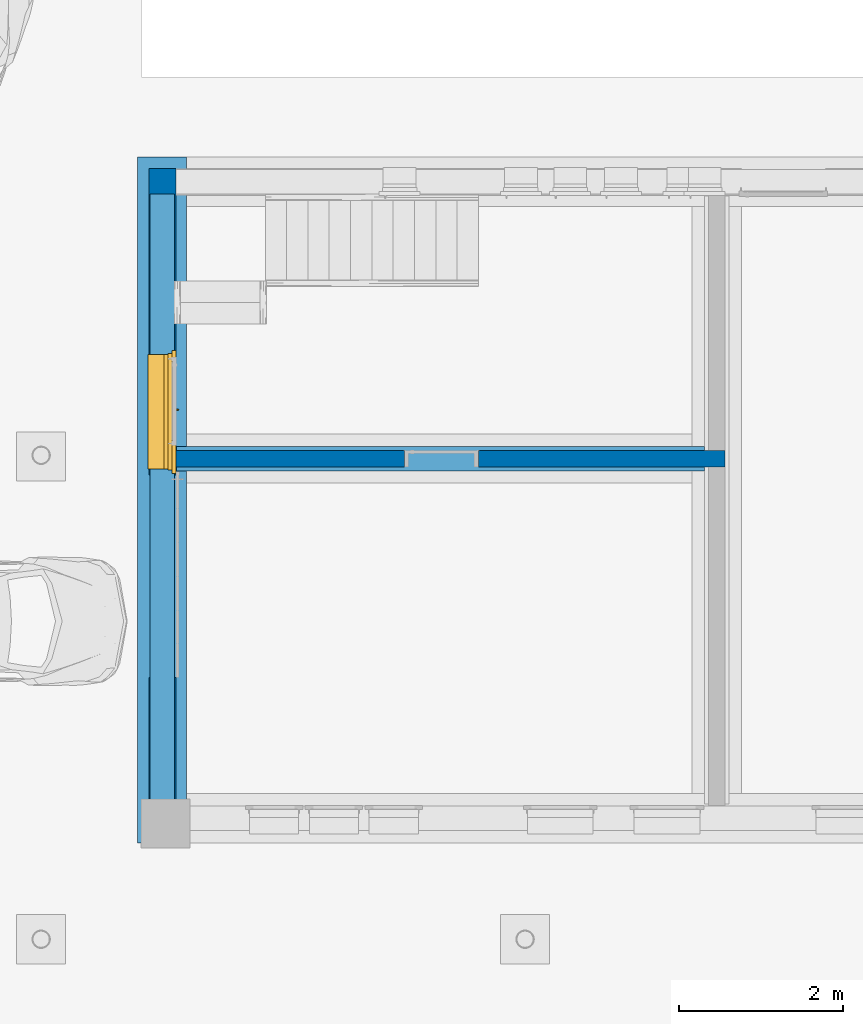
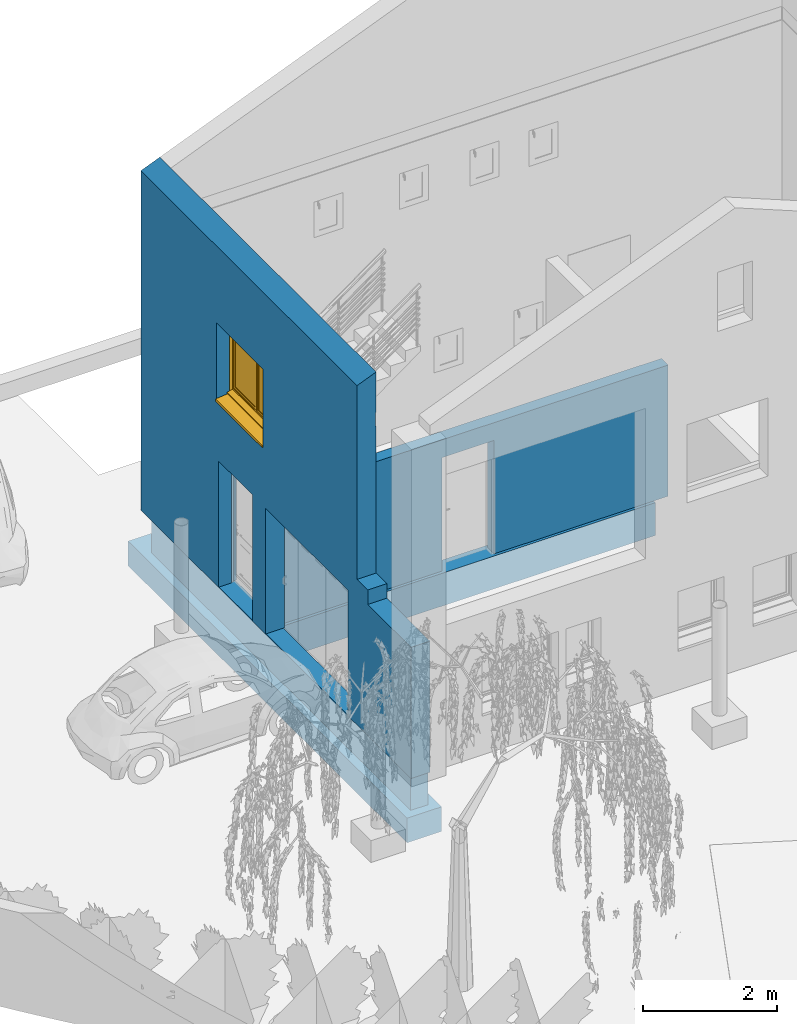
"""IFC2X3 building model written with IfcOpenShell, lengths in metres."""

from ifc_helpers import new_model, entity, si_unit, converted_unit, derived_unit, direction, frame, frame_2d, origin, place, context, subcontext, project, spatial, polyline, rectangle, extrude, clip, bounded_halfspace, faceted_brep, source, transform, mapped, material, material_list, layer, layer_set, layer_usage, type_object, type_shapes, element, fill, save


model = new_model("IFC2X3")

# Units and contexts
model_context = context("Model", 3, precision=1e-05, world=origin(), true_north=direction((6.12303176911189e-17, 1.0)))
body_context = subcontext(model_context, "Body", "Model", "MODEL_VIEW")
ifc_project = project(units=[si_unit("LENGTHUNIT", "METRE"), si_unit("AREAUNIT", "SQUARE_METRE"), si_unit("VOLUMEUNIT", "CUBIC_METRE"), converted_unit("PLANEANGLEUNIT", "DEGREE", entity("IfcRatioMeasure", 0.0174532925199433), si_unit("PLANEANGLEUNIT", "RADIAN"), dimensions=[0, 0, 0, 0, 0, 0, 0]), si_unit("MASSUNIT", "GRAM", prefix="KILO"), derived_unit("MASSDENSITYUNIT", [(si_unit("MASSUNIT", "GRAM", prefix="KILO"), 1), (si_unit("LENGTHUNIT", "METRE"), -3)]), derived_unit("MOMENTOFINERTIAUNIT", [(si_unit("LENGTHUNIT", "METRE"), 4)]), si_unit("TIMEUNIT", "SECOND"), si_unit("FREQUENCYUNIT", "HERTZ"), si_unit("THERMODYNAMICTEMPERATUREUNIT", "DEGREE_CELSIUS"), derived_unit("THERMALTRANSMITTANCEUNIT", [(si_unit("MASSUNIT", "GRAM", prefix="KILO"), 1), (si_unit("THERMODYNAMICTEMPERATUREUNIT", "KELVIN"), -1), (si_unit("TIMEUNIT", "SECOND"), -3)]), derived_unit("VOLUMETRICFLOWRATEUNIT", [(si_unit("LENGTHUNIT", "METRE"), 3), (si_unit("TIMEUNIT", "SECOND"), -1)]), si_unit("ELECTRICCURRENTUNIT", "AMPERE"), si_unit("ELECTRICVOLTAGEUNIT", "VOLT"), si_unit("POWERUNIT", "WATT"), si_unit("FORCEUNIT", "NEWTON", prefix="KILO"), si_unit("ILLUMINANCEUNIT", "LUX"), si_unit("LUMINOUSFLUXUNIT", "LUMEN"), si_unit("LUMINOUSINTENSITYUNIT", "CANDELA"), derived_unit("USERDEFINED", [(si_unit("MASSUNIT", "GRAM", prefix="KILO"), -1), (si_unit("LENGTHUNIT", "METRE"), -2), (si_unit("TIMEUNIT", "SECOND"), 3), (si_unit("LUMINOUSFLUXUNIT", "LUMEN"), 1)]), derived_unit("LINEARVELOCITYUNIT", [(si_unit("LENGTHUNIT", "METRE"), 1), (si_unit("TIMEUNIT", "SECOND"), -1)]), si_unit("PRESSUREUNIT", "PASCAL"), derived_unit("USERDEFINED", [(si_unit("LENGTHUNIT", "METRE"), -2), (si_unit("MASSUNIT", "GRAM", prefix="KILO"), 1), (si_unit("TIMEUNIT", "SECOND"), -2)]), derived_unit("LINEARFORCEUNIT", [(si_unit("MASSUNIT", "GRAM", prefix="KILO"), 1), (si_unit("LENGTHUNIT", "METRE"), 1), (si_unit("TIMEUNIT", "SECOND"), -2), (si_unit("LENGTHUNIT", "METRE"), -1)]), derived_unit("PLANARFORCEUNIT", [(si_unit("MASSUNIT", "GRAM", prefix="KILO"), 1), (si_unit("LENGTHUNIT", "METRE"), 1), (si_unit("TIMEUNIT", "SECOND"), -2), (si_unit("LENGTHUNIT", "METRE"), -2)])], contexts=[model_context])

# Site, building, storey
site_placement = place(None, origin())
site = spatial("IfcSite", under=ifc_project, at=site_placement, Name="Surface", CompositionType="ELEMENT")
building_placement = place(site_placement, origin())
building = spatial("IfcBuilding", under=site, at=building_placement, CompositionType="ELEMENT")
storey_1_placement = place(building_placement, origin())
storey_1 = spatial("IfcBuildingStorey", under=building, at=storey_1_placement, Name="Niveau rdc", CompositionType="ELEMENT", Elevation=-1.94916083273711e-14)

# Wall, openings
ifc_material_1 = material(Name="Maçonnerie - Isolant")
ifc_layer_1 = layer(ifc_material_1, 0.015)
ifc_material_2 = material(Name="Blocs briques monomur")
ifc_layer_2 = layer(ifc_material_2, 0.3)
ifc_layer_3 = layer(ifc_material_1, 0.015)
ifc_layer_set_1 = layer_set([ifc_layer_1, ifc_layer_2, ifc_layer_3], Name="Mur de base:bloc monomur30")
ifc_layer_usage_1 = layer_usage(ifc_layer_set_1, "AXIS2", "NEGATIVE", 0.165)
wall_type_1 = type_object("IfcWallType", Name="Mur de base:bloc monomur30", PredefinedType="STANDARD", material=ifc_layer_set_1)
wall_1_placement = place(storey_1_placement, frame((1.7193960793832, -0.755741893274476, 0.0), z_axis=(0.0, 0.0, 1.0), x_axis=(0.0, 1.0, 0.0)))
wall_1 = element("IfcWallStandardCase", 1, at=wall_1_placement, inside=storey_1, type_object=wall_type_1, material=ifc_layer_usage_1, Name="Mur de base:bloc monomur30", ObjectType="Mur de base:bloc monomur30", context=body_context, shape_type="Clipping", body=[
    clip(clip(clip(clip(extrude(rectangle(XDim=8.09499999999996, YDim=0.33, at=frame_2d((4.04749999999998, -6.93889390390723e-17), x_axis=(-1.0, 0.0))), origin(), (0.0, 0.0, 1.0), 6.34046205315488), bounded_halfspace(frame((1.29499999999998, -0.165, 2.66500000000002), z_axis=(0.0, 0.0, -1.0), x_axis=(1.0, 0.0, 0.0)), True, frame((1.29499999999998, -0.165, 2.66500000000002)), polyline([(0.0, 0.0), (0.320476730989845, 0.0), (0.320476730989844, 0.33), (0.0, 0.33), (0.0, 0.0)]))), bounded_halfspace(frame((0.0, -0.165, 2.40000000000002), z_axis=(0.0, 0.0, -1.0), x_axis=(0.0, 1.0, 0.0)), True, frame((0.0, -0.165, 2.40000000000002)), polyline([(0.0, 0.0), (1.29499999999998, 0.0), (1.29499999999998, 0.33), (0.0, 0.33), (0.0, 0.0)]))), bounded_halfspace(frame((1.61547673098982, -0.165, 6.34046205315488), z_axis=(0.0, 0.374606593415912, 0.927183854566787), x_axis=(-1.0, 0.0, 0.0)), False, frame((1.61547673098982, -0.165, 6.34046205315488)), polyline([(0.0, 0.0), (2.33952326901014, 0.0), (2.53952326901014, 0.0), (6.14952326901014, 0.0), (6.47952326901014, 0.0), (6.47952326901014, 0.33), (0.0, 0.33), (0.0, 0.0)]))), bounded_halfspace(frame((1.29499999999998, -0.165, 2.66500000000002), z_axis=(0.0, 0.0, -1.0), x_axis=(1.0, 0.0, 0.0)), True, frame((1.29499999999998, -0.165, 2.66500000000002)), polyline([(0.0, 0.0), (0.320476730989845, 0.0), (0.320476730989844, 0.33), (0.0, 0.33), (0.0, 0.0)]))),
])
opening_1_placement = place(storey_1_placement, frame((1.7193960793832, -0.755741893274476, 0.0), z_axis=(0.0, 0.0, 1.0), x_axis=(0.0, 1.0, 0.0)))
element("IfcOpeningElement", 2, at=opening_1_placement, cuts=wall_1, Name="Mur de base:bloc monomur30:1", ObjectType="Opening", context=body_context, shape_type="SweptSolid", body=[
    extrude(rectangle(XDim=0.0149999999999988, YDim=6.16452326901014, at=frame_2d((0.00250000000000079, 0.0558333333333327), x_axis=(1.0, 0.0))), frame((4.75357169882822, -0.16, 5.35000000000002), z_axis=(0.0, 0.0, 1.0), x_axis=(0.0, 1.0, 0.0)), (0.0, 0.0, 1.0), 0.249999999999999),
])
opening_2_placement = place(wall_1_placement, frame((4.35999999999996, 0.164999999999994, 0.0)))
element("IfcOpeningElement", 3, at=opening_2_placement, cuts=wall_1, Name="Garage coulissante:Garage coulissante:1", ObjectType="Opening", context=body_context, shape_type="SweptSolid", body=[
    extrude(rectangle(XDim=2.29999999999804, YDim=2.47, at=frame_2d((1.14999999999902, 1.235), x_axis=(1.0, 0.0))), frame((0.0, 0.0, 0.0), z_axis=(0.0, -1.0, 0.0), x_axis=(0.0, 0.0, 1.0)), (0.0, 0.0, 1.0), 0.33),
])
opening_3_placement = place(wall_1_placement, frame((4.71999999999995, 0.465000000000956, 0.0), z_axis=(0.0, 0.0, 1.0), x_axis=(0.0, -1.0, 0.0)))
element("IfcOpeningElement", 4, at=opening_3_placement, cuts=wall_1, Name="Mur de base:bloc monomur30", ObjectType="Opening", context=body_context, shape_type="Brep", body=[
    faceted_brep([(0.930000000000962, 0.0300000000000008, 2.30999999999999), (0.930000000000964, 1.05, 2.30999999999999), (0.630000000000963, 1.05, 2.30999999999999), (0.630000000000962, 0.0300000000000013, 2.30999999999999), (0.0, 0.0300000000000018, 0.0), (0.0, 1.05, 0.0), (0.530000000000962, 1.05, 0.0), (0.530000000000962, 1.065, 0.0), (0.573000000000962, 1.065, 0.0), (0.573000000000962, 1.08, 0.0), (0.630000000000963, 1.08, 0.0), (0.630000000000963, 1.05, 0.0), (0.930000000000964, 1.05, 0.0), (0.930000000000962, 0.0300000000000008, 0.0), (0.630000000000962, 0.0300000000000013, 0.0), (0.630000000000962, 0.0, 0.0), (0.57300000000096, 0.0, 0.0), (0.57300000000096, 0.0150000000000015, 0.0), (0.53000000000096, 0.0150000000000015, 0.0), (0.53000000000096, 0.0300000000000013, 0.0), (0.0, 0.0300000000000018, 2.30999999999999), (0.0, 1.05, 2.30999999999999), (0.530000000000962, 1.05, 2.30999999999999), (0.57300000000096, 0.0, 2.33999999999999), (0.573000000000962, 1.08, 2.33999999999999), (0.573000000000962, 1.065, 2.32499999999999), (0.57300000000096, 0.0150000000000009, 2.32499999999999), (0.630000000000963, 1.08, 2.33999999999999), (0.630000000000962, 0.0, 2.33999999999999), (0.530000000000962, 1.065, 2.32499999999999), (0.53000000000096, 0.0300000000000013, 2.30999999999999), (0.53000000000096, 0.0150000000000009, 2.32499999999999)], [[[0, 1, 2, 3]], [[4, 5, 6, 7, 8, 9, 10, 11, 12, 13, 14, 15, 16, 17, 18, 19]], [[13, 0, 3, 14]], [[20, 21, 5, 4]], [[5, 21, 22, 6]], [[1, 0, 13, 12]], [[16, 23, 24, 9, 8, 25, 26, 17]], [[11, 10, 27, 28, 15, 14, 3, 2]], [[10, 9, 24, 27]], [[24, 23, 28, 27]], [[23, 16, 15, 28]], [[8, 7, 29, 25]], [[7, 6, 22, 30, 19, 18, 31, 29]], [[25, 29, 31, 26]], [[31, 18, 17, 26]], [[1, 12, 11, 2]], [[20, 4, 19, 30]], [[21, 20, 30, 22]]]),
])
opening_4_placement = place(wall_1_placement, frame((4.38047673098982, 0.499999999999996, 3.37), z_axis=(0.0, 0.0, 1.0), x_axis=(0.0, -1.0, 0.0)))
opening_4 = element("IfcOpeningElement", 5, at=opening_4_placement, cuts=wall_1, Name="Mur de base:bloc monomur30", ObjectType="Opening", context=body_context, shape_type="Brep", body=[
    faceted_brep([(0.585000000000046, 0.0499999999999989, 0.0800000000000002), (0.564999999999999, 0.0499999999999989, 0.0800000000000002), (0.564999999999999, 0.0499999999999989, 1.43), (0.0, 0.0500000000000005, 1.43), (0.0, 0.0500000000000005, 0.0), (0.585000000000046, 0.0499999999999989, 0.0), (1.0, 1.45, 0.0800000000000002), (0.665000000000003, 1.45, 0.0800000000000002), (0.665000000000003, 1.45, 1.43), (1.0, 1.45, 1.43), (1.0, 0.0499999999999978, 0.0800000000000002), (0.665000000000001, 0.0499999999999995, 0.0800000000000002), (0.665000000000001, 0.0, 0.0800000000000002), (0.615000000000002, 0.0, 0.0800000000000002), (0.615000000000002, 0.0399999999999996, 0.0800000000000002), (0.564999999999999, 0.0399999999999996, 0.0800000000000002), (0.58500000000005, 1.45, 0.0799999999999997), (0.565000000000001, 1.45, 0.0800000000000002), (0.565000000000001, 1.46, 0.0800000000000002), (0.615000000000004, 1.46, 0.0800000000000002), (0.615000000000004, 1.5, 0.0800000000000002), (0.665000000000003, 1.5, 0.0800000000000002), (1.0, 0.0499999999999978, 1.43), (0.565, 1.45, 1.43), (0.0, 1.45, 1.43), (0.0, 1.45, 0.0), (0.58500000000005, 1.45, 0.0), (0.665000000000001, 0.0, 1.48), (0.615000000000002, 0.0, 1.48), (0.615000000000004, 1.5, 1.48), (0.615000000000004, 1.46, 1.44), (0.615000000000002, 0.0399999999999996, 1.44), (0.564999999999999, 0.0399999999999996, 1.44), (0.565000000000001, 1.46, 1.44), (0.665000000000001, 0.0499999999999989, 1.43), (0.665000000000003, 1.5, 1.48)], [[[0, 1, 2, 3, 4, 5]], [[6, 7, 8, 9]], [[10, 11, 12, 13, 14, 15, 1, 0, 16, 17, 18, 19, 20, 21, 7, 6]], [[10, 6, 9, 22]], [[3, 2, 23, 24]], [[3, 24, 25, 4]], [[4, 25, 26, 5]], [[5, 26, 16, 0]], [[12, 27, 28, 13]], [[13, 28, 29, 20, 19, 30, 31, 14]], [[14, 31, 32, 15]], [[15, 32, 33, 18, 17, 23, 2, 1]], [[11, 34, 8, 7, 21, 35, 27, 12]], [[27, 35, 29, 28]], [[30, 33, 32, 31]], [[29, 35, 21, 20]], [[19, 18, 33, 30]], [[9, 8, 34, 22]], [[24, 23, 17, 16, 26, 25]], [[22, 34, 11, 10]]]),
])

# Storey
storey_2_placement = place(building_placement, frame((0.0, 0.0, 2.65)))
storey_2 = spatial("IfcBuildingStorey", under=building, at=storey_2_placement, Name="Niveau étage", CompositionType="ELEMENT", Elevation=2.65)

# Window
ifc_material_3 = material(Name="Fenêtre - Poignée")
ifc_material_4 = material(Name="Fenêtre - Appui")
ifc_material_5 = material(Name="Fenêtre - Cadre(1)")
ifc_material_6 = material(Name="Fenêtre - Vitrage")
ifc_material_7 = material(Name="Fenêtre - Cadre")
ifc_material_list_1 = material_list([ifc_material_3, ifc_material_4, ifc_material_5, ifc_material_6, ifc_material_7])
ifc_material_8 = material(Name="Volets - Bois")
ifc_material_list_2 = material_list([ifc_material_6, ifc_material_7, ifc_material_8, ifc_material_4, ifc_material_5, ifc_material_3])
window_style = type_object("IfcWindowStyle", Name="2 Vantaux droits - Volets et petits bois:1.40m x 1.35m - Appui Béton 2", ConstructionType="NOTDEFINED", OperationType="DOUBLE_PANEL_VERTICAL", ParameterTakesPrecedence=False, Sizeable=False, material=ifc_material_list_2)
shared_shape = source(origin(), body_context, "Body", "Brep", [
    faceted_brep([(0.780646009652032, -0.67100000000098, 0.702033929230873), (0.782033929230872, -0.67100000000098, 0.700646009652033), (0.782033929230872, -0.67100000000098, 0.689332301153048), (0.780667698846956, -0.67100000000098, 0.687966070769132), (0.769332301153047, -0.67100000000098, 0.687966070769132), (0.767966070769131, -0.67100000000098, 0.689332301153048), (0.767966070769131, -0.67100000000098, 0.700646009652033), (0.769353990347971, -0.67100000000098, 0.702033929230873), (0.780646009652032, -0.683913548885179, 0.702033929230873), (0.782033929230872, -0.683338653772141, 0.700646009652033), (0.782033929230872, -0.69664600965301, 0.687338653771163), (0.782033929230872, -0.69664600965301, 0.600000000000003), (0.782033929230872, -0.685332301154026, 0.600000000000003), (0.782033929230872, -0.685332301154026, 0.682652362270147), (0.782033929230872, -0.678652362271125, 0.689332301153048), (0.780667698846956, -0.678086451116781, 0.687966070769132), (0.769332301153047, -0.678086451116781, 0.687966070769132), (0.767966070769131, -0.678652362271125, 0.689332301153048), (0.767966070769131, -0.685332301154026, 0.682652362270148), (0.767966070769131, -0.685332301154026, 0.600000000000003), (0.767966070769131, -0.69664600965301, 0.600000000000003), (0.767966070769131, -0.69664600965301, 0.687338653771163), (0.767966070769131, -0.683338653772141, 0.700646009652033), (0.769353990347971, -0.683913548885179, 0.702033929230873), (0.780646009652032, -0.69803392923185, 0.687913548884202), (0.780667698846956, -0.68396607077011, 0.682086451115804), (0.769332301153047, -0.68396607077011, 0.682086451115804), (0.769353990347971, -0.698033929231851, 0.687913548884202), (0.780646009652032, -0.69803392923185, 0.600000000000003), (0.769353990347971, -0.69803392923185, 0.600000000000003), (0.769332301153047, -0.68396607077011, 0.600000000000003), (0.780667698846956, -0.68396607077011, 0.600000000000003)], [[[0, 1, 2, 3, 4, 5, 6, 7]], [[1, 0, 8, 9]], [[2, 1, 9, 10, 11, 12, 13, 14]], [[3, 2, 14, 15]], [[4, 3, 15, 16]], [[5, 4, 16, 17]], [[6, 5, 17, 18, 19, 20, 21, 22]], [[7, 6, 22, 23]], [[0, 7, 23, 8]], [[9, 8, 24, 10]], [[15, 14, 13, 25]], [[16, 15, 25, 26]], [[17, 16, 26, 18]], [[23, 22, 21, 27]], [[8, 23, 27, 24]], [[28, 29, 20, 19, 30, 31, 12, 11]], [[10, 24, 28, 11]], [[25, 13, 12, 31]], [[26, 25, 31, 30]], [[18, 26, 30, 19]], [[27, 21, 20, 29]], [[24, 27, 29, 28]]]),
    faceted_brep([(0.782000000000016, -0.671000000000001, 0.72), (0.768, -0.671000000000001, 0.72), (0.763, -0.671000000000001, 0.715000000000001), (0.763, -0.671000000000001, 0.644999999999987), (0.767999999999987, -0.671000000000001, 0.639999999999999), (0.782000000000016, -0.671000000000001, 0.639999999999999), (0.787000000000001, -0.671000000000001, 0.644999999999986), (0.787000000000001, -0.671000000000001, 0.715000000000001), (0.782000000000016, -0.665000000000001, 0.72), (0.787000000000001, -0.665000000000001, 0.715000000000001), (0.787000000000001, -0.665000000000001, 0.644999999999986), (0.782000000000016, -0.665000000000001, 0.639999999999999), (0.767999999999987, -0.665000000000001, 0.639999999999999), (0.763, -0.665000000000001, 0.644999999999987), (0.763, -0.665000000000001, 0.715000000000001), (0.768, -0.665000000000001, 0.72)], [[[0, 1, 2, 3, 4, 5, 6, 7]], [[8, 9, 10, 11, 12, 13, 14, 15]], [[1, 0, 8, 15]], [[2, 1, 15, 14]], [[3, 2, 14, 13]], [[4, 3, 13, 12]], [[5, 4, 12, 11]], [[6, 5, 11, 10]], [[7, 6, 10, 9]], [[0, 7, 9, 8]]]),
    faceted_brep([(0.0499999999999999, -0.584999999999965, 0.0799999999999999), (0.05, -0.534999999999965, 0.0799999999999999), (0.05, -0.534999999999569, 0.0650000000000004), (0.0500000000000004, -0.319999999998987, 0.0424025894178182), (0.0500000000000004, -0.319999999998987, 0.0), (0.0499999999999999, -0.584999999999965, 0.0), (1.45, -0.584999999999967, 0.0799999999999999), (1.45, -0.584999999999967, 0.0), (1.45, -0.31999999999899, 0.0), (1.45, -0.31999999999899, 0.0424025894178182), (1.45, -0.534999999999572, 0.0650000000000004), (1.45, -0.534999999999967, 0.0799999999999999)], [[[0, 1, 2, 3, 4, 5]], [[6, 7, 8, 9, 10, 11]], [[1, 0, 6, 11]], [[2, 1, 11, 10]], [[3, 2, 10, 9]], [[4, 3, 9, 8]], [[5, 4, 8, 7]], [[0, 5, 7, 6]]]),
    faceted_brep([(0.75, -0.624999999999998, 1.43), (0.749999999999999, -0.664999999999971, 1.43), (0.749999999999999, -0.664999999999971, 0.13), (0.749999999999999, -0.624999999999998, 0.13), (0.0499999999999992, -0.664999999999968, 0.13), (0.0499999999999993, -0.624999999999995, 0.13), (0.0499999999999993, -0.664999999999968, 1.43), (0.0999999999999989, -0.664999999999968, 0.18), (0.0999999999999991, -0.664999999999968, 1.38), (0.699999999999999, -0.66499999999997, 1.38), (0.699999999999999, -0.66499999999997, 0.18), (0.0499999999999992, -0.624999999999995, 1.43), (0.699999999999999, -0.624999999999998, 0.18), (0.7, -0.624999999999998, 1.38), (0.0999999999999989, -0.624999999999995, 1.38), (0.0999999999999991, -0.624999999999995, 0.18)], [[[0, 1, 2, 3]], [[3, 2, 4, 5]], [[2, 1, 6, 4], [7, 8, 9, 10]], [[5, 4, 6, 11]], [[5, 11, 0, 3], [12, 13, 14, 15]], [[9, 13, 12, 10]], [[10, 12, 15, 7]], [[7, 15, 14, 8]], [[11, 6, 1, 0]], [[8, 14, 13, 9]]]),
    faceted_brep([(0.8, -0.639000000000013, 0.18), (0.8, -0.639000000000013, 1.38), (1.4, -0.639000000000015, 1.38), (1.4, -0.639000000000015, 0.18), (0.8, -0.651000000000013, 0.18), (0.8, -0.651000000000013, 1.38), (1.4, -0.651000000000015, 1.38), (1.4, -0.651000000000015, 0.18)], [[[0, 1, 2, 3]], [[1, 0, 4, 5]], [[3, 2, 6, 7]], [[0, 3, 7, 4]], [[2, 1, 5, 6]], [[4, 7, 6, 5]]]),
    faceted_brep([(0.7, -0.639000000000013, 0.18), (0.7, -0.639000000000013, 1.38), (0.7, -0.651000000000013, 1.38), (0.7, -0.651000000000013, 0.18), (0.0999999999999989, -0.639000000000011, 0.18), (0.0999999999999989, -0.651000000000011, 0.18), (0.0999999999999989, -0.639000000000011, 1.38), (0.0999999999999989, -0.651000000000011, 1.38)], [[[0, 1, 2, 3]], [[4, 0, 3, 5]], [[6, 4, 5, 7]], [[7, 5, 3, 2]], [[1, 6, 7, 2]], [[6, 1, 0, 4]]]),
    faceted_brep([(0.799999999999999, -0.625000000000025, 1.38), (0.799999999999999, -0.665000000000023, 1.38), (0.799999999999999, -0.665000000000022, 0.18), (0.8, -0.625000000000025, 0.18), (1.4, -0.665000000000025, 0.18), (1.4, -0.625000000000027, 0.18), (1.4, -0.665000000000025, 1.38), (1.45, -0.665000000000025, 0.130000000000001), (1.45, -0.665000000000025, 1.43), (0.75, -0.665000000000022, 1.43), (0.75, -0.665000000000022, 0.130000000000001), (1.4, -0.625000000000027, 1.38), (0.75, -0.625000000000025, 0.130000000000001), (0.75, -0.625000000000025, 1.43), (1.45, -0.625000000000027, 1.43), (1.45, -0.625000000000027, 0.130000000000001)], [[[0, 1, 2, 3]], [[3, 2, 4, 5]], [[2, 1, 6, 4], [7, 8, 9, 10]], [[5, 4, 6, 11]], [[5, 11, 0, 3], [12, 13, 14, 15]], [[9, 13, 12, 10]], [[10, 12, 15, 7]], [[7, 15, 14, 8]], [[11, 6, 1, 0]], [[8, 14, 13, 9]]], outer=[[True], [True], [False, True], [True], [False, True], [True], [True], [True], [True], [True]]),
    faceted_brep([(0.0, -0.665000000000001, 0.0799999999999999), (0.0, -0.615000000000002, 0.0799999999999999), (0.0499999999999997, -0.615000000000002, 0.0799999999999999), (0.0499999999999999, -0.530000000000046, 0.0799999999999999), (1.45, -0.530000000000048, 0.0800000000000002), (1.45, -0.615000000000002, 0.0799999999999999), (1.5, -0.615000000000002, 0.0799999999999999), (1.5, -0.665000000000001, 0.0799999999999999), (0.0, -0.665000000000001, 1.48), (0.0, -0.615000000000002, 1.48), (1.5, -0.615000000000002, 1.48), (1.45, -0.615000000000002, 0.119376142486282), (0.0499999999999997, -0.615000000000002, 0.119376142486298), (0.0649999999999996, -0.615000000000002, 1.415), (0.0649999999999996, -0.615000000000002, 0.145), (1.435, -0.615000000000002, 0.145), (1.435, -0.615000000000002, 1.415), (0.0499999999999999, -0.520000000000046, 0.0939209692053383), (0.0499999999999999, -0.520000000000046, 0.0749999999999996), (0.0499999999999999, -0.530000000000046, 0.0749999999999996), (1.45, -0.530000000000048, 0.0749999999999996), (1.45, -0.520000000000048, 0.0749999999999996), (1.45, -0.520000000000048, 0.0939209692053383), (1.5, -0.665000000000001, 1.48), (1.45, -0.665000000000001, 1.43), (1.45, -0.665000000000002, 0.13), (0.0499999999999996, -0.665000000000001, 0.13), (0.0499999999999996, -0.665000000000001, 1.43), (0.0649999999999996, -0.625000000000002, 1.415), (0.0649999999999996, -0.625000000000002, 0.145), (1.435, -0.625000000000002, 0.145), (1.435, -0.625000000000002, 1.415), (1.45, -0.625000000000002, 1.43), (0.0499999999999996, -0.625000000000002, 1.43), (0.0499999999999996, -0.625000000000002, 0.13), (1.45, -0.625000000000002, 0.13)], [[[0, 1, 2, 3, 4, 5, 6, 7]], [[1, 0, 8, 9]], [[1, 9, 10, 6, 5, 11, 12, 2], [13, 14, 15, 16]], [[12, 17, 18, 19, 3, 2]], [[3, 19, 20, 4]], [[4, 20, 21, 22, 11, 5]], [[6, 10, 23, 7]], [[0, 7, 23, 8], [24, 25, 26, 27]], [[13, 28, 29, 14]], [[29, 30, 15, 14]], [[31, 16, 15, 30]], [[17, 12, 11, 22]], [[32, 33, 34, 35], [28, 31, 30, 29]], [[34, 33, 27, 26]], [[26, 25, 35, 34]], [[24, 32, 35, 25]], [[18, 17, 22, 21]], [[19, 18, 21, 20]], [[13, 16, 31, 28]], [[33, 32, 24, 27]], [[10, 9, 8, 23]]]),
    faceted_brep([(0.0499999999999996, -0.565, 0.0799999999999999), (0.0499999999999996, -0.615000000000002, 0.0799999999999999), (0.0399999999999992, -0.615000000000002, 0.0799999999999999), (0.0399999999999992, -0.565, 0.0799999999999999), (0.0499999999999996, -0.565, 1.43), (0.0499999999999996, -0.615000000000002, 1.43), (1.45, -0.615000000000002, 1.43), (1.45, -0.615000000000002, 0.0799999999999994), (1.46, -0.615000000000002, 0.0799999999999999), (1.46, -0.615000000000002, 1.44), (0.0399999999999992, -0.615000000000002, 1.44), (0.0399999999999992, -0.565, 1.44), (1.46, -0.565, 1.44), (1.46, -0.565, 0.0799999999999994), (1.45, -0.565, 0.0799999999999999), (1.45, -0.565, 1.43)], [[[0, 1, 2, 3]], [[1, 0, 4, 5]], [[2, 1, 5, 6, 7, 8, 9, 10]], [[3, 2, 10, 11]], [[0, 3, 11, 12, 13, 14, 15, 4]], [[6, 15, 14, 7]], [[14, 13, 8, 7]], [[12, 9, 8, 13]], [[5, 4, 15, 6]], [[11, 10, 9, 12]]]),
    faceted_brep([(0.769999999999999, -0.61700000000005, 1.415), (0.729999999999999, -0.617000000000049, 1.415), (0.729999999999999, -0.625000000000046, 1.415), (0.769999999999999, -0.625000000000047, 1.415), (0.769999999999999, -0.61700000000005, 0.145), (0.769999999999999, -0.625000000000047, 0.145), (0.729999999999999, -0.625000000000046, 0.145), (0.729999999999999, -0.617000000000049, 0.145)], [[[0, 1, 2, 3]], [[4, 5, 6, 7]], [[1, 0, 4, 7]], [[2, 1, 7, 6]], [[3, 2, 6, 5]], [[0, 3, 5, 4]]]),
])
type_shapes(window_style, [shared_shape])
window_placement = place(opening_4_placement, frame((0.0, 0.0, 0.0), z_axis=(0.0, 0.0, 1.0), x_axis=(0.0, 1.0, 0.0)))
window = element("IfcWindow", 6, at=window_placement, inside=storey_2, type_object=window_style, material=ifc_material_list_1, Name="2 Vantaux droits - Volets et petits bois:1.40m x 1.35m - Appui Béton 2", ObjectType="2 Vantaux droits - Volets et petits bois:1.40m x 1.35m - Appui Béton 2", OverallHeight=1.48, OverallWidth=1.5, context=body_context, shape_type="MappedRepresentation", body=[
    mapped(shared_shape, transform((0.0, 0.0, 0.0), scale=1.0)),
])

fill(opening_4, window)

# Wall, openings
ifc_material_9 = material(Name="Maçonnerie - Voile BA")
ifc_layer_4 = layer(ifc_material_9, 0.3)
ifc_layer_set_2 = layer_set([ifc_layer_4], Name="Mur de base:Ext. Voile 30")
ifc_layer_usage_2 = layer_usage(ifc_layer_set_2, "AXIS2", "NEGATIVE", 0.15)
wall_type_2 = type_object("IfcWallType", Name="Mur de base:Ext. Voile 30", PredefinedType="STANDARD", material=ifc_layer_set_2)
wall_2_placement = place(storey_1_placement, frame((1.71439607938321, 7.02925810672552, -0.6), z_axis=(0.0, 0.0, 1.0), x_axis=(0.0, -1.0, 0.0)))
wall_2 = element("IfcWallStandardCase", 7, at=wall_2_placement, inside=storey_1, type_object=wall_type_2, material=ifc_layer_usage_2, Name="Mur de base:Ext. Voile 30", ObjectType="Mur de base:Ext. Voile 30", context=body_context, shape_type="SweptSolid", body=[
    extrude(rectangle(XDim=7.76, YDim=0.3, at=frame_2d((3.88, 6.93889390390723e-17), x_axis=(-1.0, 0.0))), origin(), (0.0, 0.0, 1.0), 0.6),
])
opening_5_placement = place(wall_2_placement, frame((3.06500000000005, -0.46000000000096, 0.600000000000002)))
element("IfcOpeningElement", 8, at=opening_5_placement, cuts=wall_2, Name="Mur de base:Ext. Voile 30", ObjectType="Opening", context=body_context, shape_type="Brep", body=[
    faceted_brep([(-0.0300000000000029, 0.930000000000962, 2.30999999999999), (-1.05, 0.930000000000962, 2.30999999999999), (-1.05, 0.630000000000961, 2.30999999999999), (-0.0300000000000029, 0.630000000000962, 2.30999999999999), (-0.0300000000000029, 0.0, 0.0), (-1.05, 0.0, 0.0), (-1.05, 0.53000000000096, 0.0), (-1.065, 0.53000000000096, 0.0), (-1.065, 0.57300000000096, 0.0), (-1.08, 0.57300000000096, 0.0), (-1.08, 0.630000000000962, 0.0), (-1.05, 0.630000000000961, 0.0), (-1.05, 0.930000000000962, 0.0), (-0.0300000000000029, 0.930000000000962, 0.0), (-0.0300000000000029, 0.630000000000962, 0.0), (0.0, 0.630000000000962, 0.0), (0.0, 0.57300000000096, 0.0), (-0.0150000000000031, 0.57300000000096, 0.0), (-0.0150000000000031, 0.53000000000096, 0.0), (-0.0300000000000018, 0.53000000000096, 0.0), (-0.0300000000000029, 0.0, 2.30999999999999), (-1.05, 0.0, 2.30999999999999), (-1.05, 0.53000000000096, 2.30999999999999), (0.0, 0.57300000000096, 2.33999999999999), (-1.08, 0.57300000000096, 2.33999999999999), (-1.065, 0.57300000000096, 2.32499999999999), (-0.015000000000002, 0.57300000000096, 2.32499999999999), (-1.08, 0.630000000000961, 2.33999999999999), (0.0, 0.630000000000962, 2.33999999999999), (-1.065, 0.53000000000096, 2.32499999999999), (-0.0300000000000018, 0.53000000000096, 2.30999999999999), (-0.015000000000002, 0.53000000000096, 2.32499999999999)], [[[0, 1, 2, 3]], [[4, 5, 6, 7, 8, 9, 10, 11, 12, 13, 14, 15, 16, 17, 18, 19]], [[13, 0, 3, 14]], [[20, 21, 5, 4]], [[5, 21, 22, 6]], [[1, 0, 13, 12]], [[16, 23, 24, 9, 8, 25, 26, 17]], [[11, 10, 27, 28, 15, 14, 3, 2]], [[10, 9, 24, 27]], [[24, 23, 28, 27]], [[23, 16, 15, 28]], [[8, 7, 29, 25]], [[7, 6, 22, 30, 19, 18, 31, 29]], [[25, 29, 31, 26]], [[31, 18, 17, 26]], [[1, 12, 11, 2]], [[20, 4, 19, 30]], [[21, 20, 30, 22]]]),
])
opening_6_placement = place(wall_2_placement, origin())
element("IfcOpeningElement", 9, at=opening_6_placement, cuts=wall_2, Name="Mur de base:Ext. Voile 30", ObjectType="Opening", context=body_context, shape_type="SweptSolid", body=[
    extrude(rectangle(XDim=2.29999999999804, YDim=2.47, at=frame_2d((1.11022302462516e-16, 0.0), x_axis=(0.0, 1.0))), frame((4.66000000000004, -1.354, 1.74999999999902), z_axis=(0.0, 1.0, 0.0), x_axis=(-1.0, 0.0, 0.0)), (0.0, 0.0, 1.0), 3.048),
])

# Walls
ifc_layer_usage_3 = layer_usage(ifc_layer_set_2, "AXIS2", "NEGATIVE", 0.15)
wall_3_placement = place(storey_1_placement, frame((1.88939607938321, 3.80425810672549, -0.6)))
element("IfcWallStandardCase", 10, at=wall_3_placement, inside=storey_1, type_object=wall_type_2, material=ifc_layer_usage_3, Name="Mur de base:Ext. Voile 30", ObjectType="Mur de base:Ext. Voile 30", context=body_context, shape_type="SweptSolid", body=[
    extrude(rectangle(XDim=6.4375730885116, YDim=0.3, at=frame_2d((3.2187865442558, 2.77555756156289e-17), x_axis=(-1.0, 0.0))), origin(), (0.0, 0.0, 1.0), 0.6),
])
ifc_layer_5 = layer(ifc_material_9, 0.6)
ifc_layer_set_3 = layer_set([ifc_layer_5], Name="Mur de base:fondations 60*45")
ifc_layer_usage_4 = layer_usage(ifc_layer_set_3, "AXIS2", "NEGATIVE", 0.3)
wall_type_3 = type_object("IfcWallType", Name="Mur de base:fondations 60*45", PredefinedType="STANDARD", material=ifc_layer_set_3)
wall_4_placement = place(storey_1_placement, frame((1.71439607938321, 7.47925810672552, -1.05), z_axis=(0.0, 0.0, 1.0), x_axis=(0.0, -1.0, 0.0)))
element("IfcWallStandardCase", 11, at=wall_4_placement, inside=storey_1, type_object=wall_type_3, material=ifc_layer_usage_4, Name="Mur de base:fondations 60*45", ObjectType="Mur de base:fondations 60*45", context=body_context, shape_type="SweptSolid", body=[
    extrude(rectangle(XDim=8.36, YDim=0.6, at=frame_2d((4.18, -8.32667268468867e-17), x_axis=(-1.0, 0.0))), origin(), (0.0, 0.0, 1.0), 0.45),
])

# Wall, opening
ifc_material_10 = material(Name="Brique, commune")
ifc_layer_6 = layer(ifc_material_10, 0.2)
ifc_layer_set_4 = layer_set([ifc_layer_6], Name="Mur de base:Ext. Brique 22")
ifc_layer_usage_5 = layer_usage(ifc_layer_set_4, "AXIS2", "NEGATIVE", 0.1)
wall_type_4 = type_object("IfcWallType", Name="Mur de base:Ext. Brique 22", PredefinedType="STANDARD", material=ifc_layer_set_4)
wall_5_placement = place(storey_1_placement, frame((1.88439607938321, 3.80425810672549, 0.0)))
wall_5 = element("IfcWallStandardCase", 12, at=wall_5_placement, inside=storey_1, type_object=wall_type_4, material=ifc_layer_usage_5, Name="Mur de base:Ext. Brique 22", ObjectType="Mur de base:Ext. Brique 22", context=body_context, shape_type="SweptSolid", body=[
    extrude(rectangle(XDim=6.6925730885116, YDim=0.2, at=frame_2d((3.3462865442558, -4.16333634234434e-17), x_axis=(-1.0, 0.0))), origin(), (0.0, 0.0, 1.0), 2.4),
])
opening_7_placement = place(wall_5_placement, frame((2.78500000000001, -0.100000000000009, 0.0)))
element("IfcOpeningElement", 13, at=opening_7_placement, cuts=wall_5, Name="Int. Simple:PP (0.83m x 2.04m):1", ObjectType="Opening", context=body_context, shape_type="SweptSolid", body=[
    extrude(rectangle(XDim=2.075, YDim=0.9, at=frame_2d((1.0375, 0.45), x_axis=(1.0, 0.0))), frame((0.0, 0.0, 0.0), z_axis=(0.0, 1.0, 0.0), x_axis=(0.0, 0.0, 1.0)), (0.0, 0.0, 1.0), 0.2),
])

save(model, "model.ifc")
